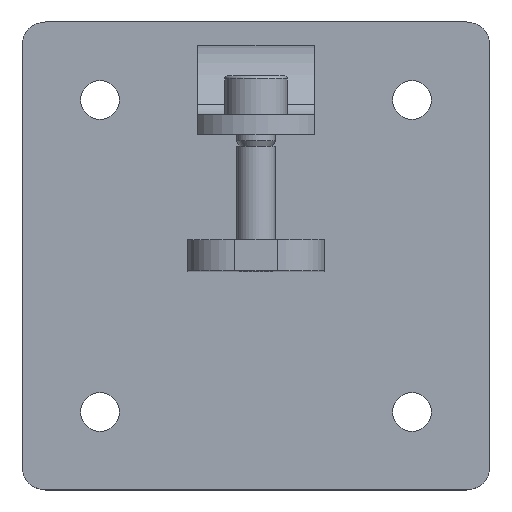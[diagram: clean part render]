
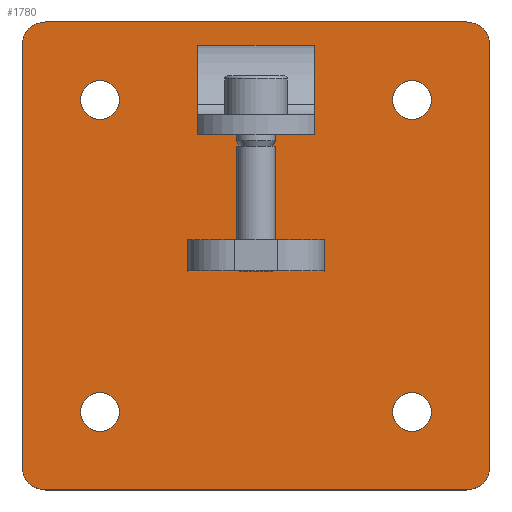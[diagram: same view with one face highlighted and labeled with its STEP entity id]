
A CAD part, top view. The second image highlights one B-rep face of the part: STEP entity #1780.
In plain terms, the highlighted planar face has unit normal (0, 0, 1).
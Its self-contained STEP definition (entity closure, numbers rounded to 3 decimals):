
#773 = CARTESIAN_POINT ( 'NONE',  ( -45., -40., 4. ) ) ;
#800 = CARTESIAN_POINT ( 'NONE',  ( -35., -40., 4. ) ) ;
#801 = DIRECTION ( 'NONE',  ( 1., 0., 0. ) ) ;
#802 = DIRECTION ( 'NONE',  ( 0., 0., 1. ) ) ;
#803 = CARTESIAN_POINT ( 'NONE',  ( -40., -40., 4. ) ) ;
#804 = AXIS2_PLACEMENT_3D ( 'NONE', #803, #802, #801 ) ;
#805 = CIRCLE ( 'NONE', #804, 5. ) ;
#809 = DIRECTION ( 'NONE',  ( 1., 0., 0. ) ) ;
#810 = DIRECTION ( 'NONE',  ( 0., 0., 1. ) ) ;
#811 = CARTESIAN_POINT ( 'NONE',  ( 40., -40., 4. ) ) ;
#812 = AXIS2_PLACEMENT_3D ( 'NONE', #811, #810, #809 ) ;
#813 = CIRCLE ( 'NONE', #812, 5. ) ;
#815 = CARTESIAN_POINT ( 'NONE',  ( 35., -40., 4. ) ) ;
#819 = CARTESIAN_POINT ( 'NONE',  ( 45., -40., 4. ) ) ;
#889 = DIRECTION ( 'NONE',  ( 1., 0., 0. ) ) ;
#890 = DIRECTION ( 'NONE',  ( 0., 0., 1. ) ) ;
#891 = CARTESIAN_POINT ( 'NONE',  ( -40., 40., 4. ) ) ;
#892 = AXIS2_PLACEMENT_3D ( 'NONE', #891, #890, #889 ) ;
#893 = CIRCLE ( 'NONE', #892, 5. ) ;
#956 = CARTESIAN_POINT ( 'NONE',  ( -45., 40., 4. ) ) ;
#977 = CARTESIAN_POINT ( 'NONE',  ( -35., 40., 4. ) ) ;
#985 = DIRECTION ( 'NONE',  ( 1., 0., 0. ) ) ;
#986 = DIRECTION ( 'NONE',  ( 0., 0., 1. ) ) ;
#987 = CARTESIAN_POINT ( 'NONE',  ( -54., 54., 4. ) ) ;
#988 = AXIS2_PLACEMENT_3D ( 'NONE', #987, #986, #985 ) ;
#992 = CIRCLE ( 'NONE', #988, 6. ) ;
#1007 = CARTESIAN_POINT ( 'NONE',  ( 45., 40., 4. ) ) ;
#1013 = DIRECTION ( 'NONE',  ( 1., 0., 0. ) ) ;
#1014 = DIRECTION ( 'NONE',  ( 0., 0., 1. ) ) ;
#1015 = CARTESIAN_POINT ( 'NONE',  ( 40., -40., 4. ) ) ;
#1016 = AXIS2_PLACEMENT_3D ( 'NONE', #1015, #1014, #1013 ) ;
#1017 = CIRCLE ( 'NONE', #1016, 5. ) ;
#1023 = CARTESIAN_POINT ( 'NONE',  ( -60., -54., 4. ) ) ;
#1028 = CARTESIAN_POINT ( 'NONE',  ( -60., 54., 4. ) ) ;
#1033 = DIRECTION ( 'NONE',  ( 0., -1., 0. ) ) ;
#1034 = VECTOR ( 'NONE', #1033, 1000. ) ;
#1035 = CARTESIAN_POINT ( 'NONE',  ( -60., 60., 4. ) ) ;
#1036 = LINE ( 'NONE', #1035, #1034 ) ;
#1047 = CARTESIAN_POINT ( 'NONE',  ( 54., -60., 4. ) ) ;
#1066 = DIRECTION ( 'NONE',  ( 1., 0., 0. ) ) ;
#1067 = VECTOR ( 'NONE', #1066, 1000. ) ;
#1068 = CARTESIAN_POINT ( 'NONE',  ( -60., -60., 4. ) ) ;
#1069 = LINE ( 'NONE', #1068, #1067 ) ;
#1070 = DIRECTION ( 'NONE',  ( 1., 0., 0. ) ) ;
#1071 = DIRECTION ( 'NONE',  ( 0., 0., 1. ) ) ;
#1072 = CARTESIAN_POINT ( 'NONE',  ( 40., 40., 4. ) ) ;
#1073 = AXIS2_PLACEMENT_3D ( 'NONE', #1072, #1071, #1070 ) ;
#1074 = CIRCLE ( 'NONE', #1073, 5. ) ;
#1075 = CARTESIAN_POINT ( 'NONE',  ( -54., -60., 4. ) ) ;
#1082 = CARTESIAN_POINT ( 'NONE',  ( 35., 40., 4. ) ) ;
#1088 = DIRECTION ( 'NONE',  ( 1., 0., 0. ) ) ;
#1089 = DIRECTION ( 'NONE',  ( 0., 0., 1. ) ) ;
#1090 = CARTESIAN_POINT ( 'NONE',  ( 60., -60., 4. ) ) ;
#1091 = AXIS2_PLACEMENT_3D ( 'NONE', #1090, #1089, #1088 ) ;
#1092 = PLANE ( 'NONE',  #1091 ) ;
#1093 = FACE_OUTER_BOUND ( 'NONE', #2918, .T. ) ;
#1094 = FACE_BOUND ( 'NONE', #2932, .T. ) ;
#1095 = FACE_BOUND ( 'NONE', #2916, .T. ) ;
#1096 = FACE_BOUND ( 'NONE', #1776, .T. ) ;
#1097 = FACE_BOUND ( 'NONE', #1764, .T. ) ;
#1102 = DIRECTION ( 'NONE',  ( 1., 0., 0. ) ) ;
#1103 = DIRECTION ( 'NONE',  ( 0., 0., 1. ) ) ;
#1104 = CARTESIAN_POINT ( 'NONE',  ( -40., -40., 4. ) ) ;
#1105 = AXIS2_PLACEMENT_3D ( 'NONE', #1104, #1103, #1102 ) ;
#1106 = CIRCLE ( 'NONE', #1105, 5. ) ;
#1587 = VERTEX_POINT ( 'NONE', #773 ) ;
#1598 = VERTEX_POINT ( 'NONE', #819 ) ;
#1599 = VERTEX_POINT ( 'NONE', #815 ) ;
#1601 = EDGE_CURVE ( 'NONE', #1599, #1598, #813, .T. ) ;
#1603 = EDGE_CURVE ( 'NONE', #1587, #1605, #805, .T. ) ;
#1605 = VERTEX_POINT ( 'NONE', #800 ) ;
#1658 = EDGE_CURVE ( 'NONE', #1700, #1678, #893, .T. ) ;
#1678 = VERTEX_POINT ( 'NONE', #977 ) ;
#1700 = VERTEX_POINT ( 'NONE', #956 ) ;
#1711 = VERTEX_POINT ( 'NONE', #1007 ) ;
#1726 = EDGE_CURVE ( 'NONE', #2948, #1747, #992, .T. ) ;
#1744 = EDGE_CURVE ( 'NONE', #1747, #1753, #1036, .T. ) ;
#1747 = VERTEX_POINT ( 'NONE', #1028 ) ;
#1753 = VERTEX_POINT ( 'NONE', #1023 ) ;
#1755 = EDGE_CURVE ( 'NONE', #1598, #1599, #1017, .T. ) ;
#1757 = ORIENTED_EDGE ( 'NONE', *, *, #1601, .F. ) ;
#1758 = VERTEX_POINT ( 'NONE', #1075 ) ;
#1760 = EDGE_CURVE ( 'NONE', #2639, #1711, #1074, .T. ) ;
#1761 = EDGE_CURVE ( 'NONE', #1758, #1773, #1069, .T. ) ;
#1764 = EDGE_LOOP ( 'NONE', ( #1772, #1757 ) ) ;
#1772 = ORIENTED_EDGE ( 'NONE', *, *, #1755, .F. ) ;
#1773 = VERTEX_POINT ( 'NONE', #1047 ) ;
#1775 = ORIENTED_EDGE ( 'NONE', *, *, #1777, .F. ) ;
#1776 = EDGE_LOOP ( 'NONE', ( #1775, #2911 ) ) ;
#1777 = EDGE_CURVE ( 'NONE', #1605, #1587, #1106, .T. ) ;
#1780 = ADVANCED_FACE ( 'NONE', ( #1097, #1096, #1095, #1094, #1093 ), #1092, .T. ) ;
#1846 = DIRECTION ( 'NONE',  ( 1., 0., 0. ) ) ;
#1847 = DIRECTION ( 'NONE',  ( 0., 0., 1. ) ) ;
#1848 = CARTESIAN_POINT ( 'NONE',  ( -54., -54., 4. ) ) ;
#1849 = AXIS2_PLACEMENT_3D ( 'NONE', #1848, #1847, #1846 ) ;
#1850 = CIRCLE ( 'NONE', #1849, 6. ) ;
#1874 = DIRECTION ( 'NONE',  ( 0., 0., 1. ) ) ;
#1875 = AXIS2_PLACEMENT_3D ( 'NONE', #1880, #1874, #1938 ) ;
#1876 = CIRCLE ( 'NONE', #1875, 6. ) ;
#1880 = CARTESIAN_POINT ( 'NONE',  ( 54., 54., 4. ) ) ;
#1888 = DIRECTION ( 'NONE',  ( 1., 0., 0. ) ) ;
#1889 = DIRECTION ( 'NONE',  ( 0., 0., 1. ) ) ;
#1890 = CARTESIAN_POINT ( 'NONE',  ( 54., -54., 4. ) ) ;
#1891 = AXIS2_PLACEMENT_3D ( 'NONE', #1890, #1889, #1888 ) ;
#1892 = CIRCLE ( 'NONE', #1891, 6. ) ;
#1903 = DIRECTION ( 'NONE',  ( 1., 0., 0. ) ) ;
#1904 = DIRECTION ( 'NONE',  ( 0., 0., 1. ) ) ;
#1905 = CARTESIAN_POINT ( 'NONE',  ( 40., 40., 4. ) ) ;
#1906 = AXIS2_PLACEMENT_3D ( 'NONE', #1905, #1904, #1903 ) ;
#1907 = CIRCLE ( 'NONE', #1906, 5. ) ;
#1914 = DIRECTION ( 'NONE',  ( -1., 0., 0. ) ) ;
#1915 = VECTOR ( 'NONE', #1914, 1000. ) ;
#1916 = CARTESIAN_POINT ( 'NONE',  ( -60., 60., 4. ) ) ;
#1917 = LINE ( 'NONE', #1916, #1915 ) ;
#1924 = CARTESIAN_POINT ( 'NONE',  ( 54., 60., 4. ) ) ;
#1925 = CARTESIAN_POINT ( 'NONE',  ( -54., 60., 4. ) ) ;
#1926 = DIRECTION ( 'NONE',  ( 0., 1., 0. ) ) ;
#1927 = VECTOR ( 'NONE', #1926, 1000. ) ;
#1928 = CARTESIAN_POINT ( 'NONE',  ( 60., 60., 4. ) ) ;
#1929 = LINE ( 'NONE', #1928, #1927 ) ;
#1930 = CARTESIAN_POINT ( 'NONE',  ( 60., -54., 4. ) ) ;
#1931 = CARTESIAN_POINT ( 'NONE',  ( 60., 54., 4. ) ) ;
#1932 = DIRECTION ( 'NONE',  ( 1., 0., 0. ) ) ;
#1933 = DIRECTION ( 'NONE',  ( 0., 0., 1. ) ) ;
#1934 = CARTESIAN_POINT ( 'NONE',  ( -40., 40., 4. ) ) ;
#1935 = AXIS2_PLACEMENT_3D ( 'NONE', #1934, #1933, #1932 ) ;
#1936 = CIRCLE ( 'NONE', #1935, 5. ) ;
#1938 = DIRECTION ( 'NONE',  ( 1., 0., 0. ) ) ;
#2639 = VERTEX_POINT ( 'NONE', #1082 ) ;
#2910 = ORIENTED_EDGE ( 'NONE', *, *, #2938, .F. ) ;
#2911 = ORIENTED_EDGE ( 'NONE', *, *, #1603, .F. ) ;
#2912 = ORIENTED_EDGE ( 'NONE', *, *, #1760, .F. ) ;
#2913 = ORIENTED_EDGE ( 'NONE', *, *, #2915, .F. ) ;
#2914 = EDGE_CURVE ( 'NONE', #1753, #1758, #1850, .T. ) ;
#2915 = EDGE_CURVE ( 'NONE', #1711, #2639, #1907, .T. ) ;
#2916 = EDGE_LOOP ( 'NONE', ( #2913, #2912 ) ) ;
#2918 = EDGE_LOOP ( 'NONE', ( #2926, #2922, #2921, #2919, #2933, #2920, #2923, #2929 ) ) ;
#2919 = ORIENTED_EDGE ( 'NONE', *, *, #2927, .T. ) ;
#2920 = ORIENTED_EDGE ( 'NONE', *, *, #2931, .T. ) ;
#2921 = ORIENTED_EDGE ( 'NONE', *, *, #1761, .T. ) ;
#2922 = ORIENTED_EDGE ( 'NONE', *, *, #2914, .T. ) ;
#2923 = ORIENTED_EDGE ( 'NONE', *, *, #2952, .T. ) ;
#2926 = ORIENTED_EDGE ( 'NONE', *, *, #1744, .T. ) ;
#2927 = EDGE_CURVE ( 'NONE', #1773, #2943, #1892, .T. ) ;
#2929 = ORIENTED_EDGE ( 'NONE', *, *, #1726, .T. ) ;
#2931 = EDGE_CURVE ( 'NONE', #2940, #2949, #1876, .T. ) ;
#2932 = EDGE_LOOP ( 'NONE', ( #2910, #2936 ) ) ;
#2933 = ORIENTED_EDGE ( 'NONE', *, *, #2947, .T. ) ;
#2936 = ORIENTED_EDGE ( 'NONE', *, *, #1658, .F. ) ;
#2938 = EDGE_CURVE ( 'NONE', #1678, #1700, #1936, .T. ) ;
#2940 = VERTEX_POINT ( 'NONE', #1931 ) ;
#2943 = VERTEX_POINT ( 'NONE', #1930 ) ;
#2947 = EDGE_CURVE ( 'NONE', #2943, #2940, #1929, .T. ) ;
#2948 = VERTEX_POINT ( 'NONE', #1925 ) ;
#2949 = VERTEX_POINT ( 'NONE', #1924 ) ;
#2952 = EDGE_CURVE ( 'NONE', #2949, #2948, #1917, .T. ) ;
